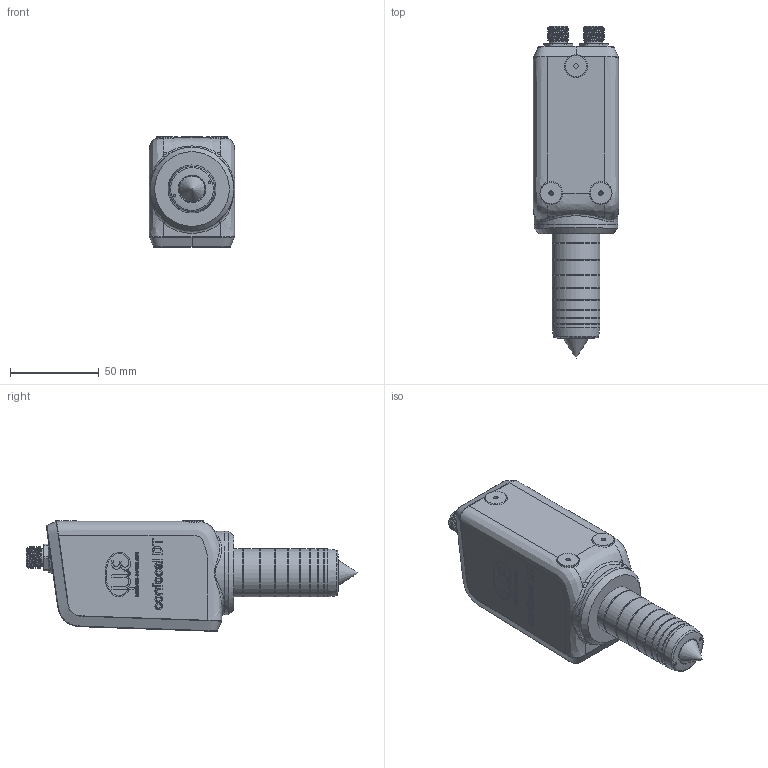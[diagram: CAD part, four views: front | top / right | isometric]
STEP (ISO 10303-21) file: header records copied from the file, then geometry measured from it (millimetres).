
FILE_DESCRIPTION (( 'STEP AP203' ), '1' );
FILE_NAME ('IFD2415-1.STEP', '2023-04-05T12:27:54', ( '' ), ( '' ), 'SwSTEP 2.0', 'SolidWorks 2020', '' );
FILE_SCHEMA (( 'CONFIG_CONTROL_DESIGN' ));
Products named in the file (1): IFD2415-1
Bounding box: 48 x 186.75 x 62.4 mm (x, y, z)
Volume: 310821 mm3; surface area: 40116.9 mm2
Topology: 2 solids, 23 shells, 3342 faces, 8624 edges, 5418 vertices
Faces by surface type: bspline 1283, plane 1208, cylinder 597, torus 133, sphere 103, cone 18
Full cylindrical faces by diameter (mm): 0.5 x29, 1.5 x2, 1.6 x1, 2 x14, 2.2 x10, 2.3 x10, 2.5 x3, 3.8 x10, 4 x10, 8.5 x4, 9.5 x1, 10 x7, 15 x1, 26.843 x1, 27 x9, 43 x1, 47 x1
Entity records: 150838 total; most frequent: CARTESIAN_POINT 81251, ORIENTED_EDGE 16364, DIRECTION 10937, EDGE_CURVE 8182, VERTEX_POINT 5228, LINE 3827, VECTOR 3827, EDGE_LOOP 3720
